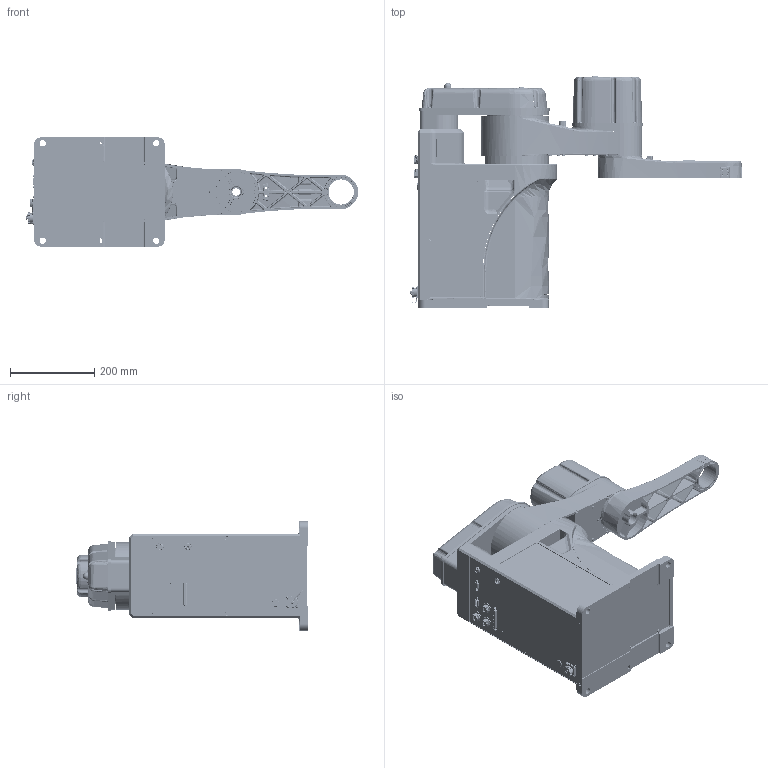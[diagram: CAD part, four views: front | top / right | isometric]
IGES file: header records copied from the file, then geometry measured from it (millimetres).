
Start section: SolidWorks IGES file using analytic representation for surfaces
Global section: file name: D:\QKM_PDM\01_SP研发\044HM8\05_对外发布模型\HM8-0500-0652-0000\IGS\HM8-0500-0652-0000-V1.0.IGS; native system: SolidWorks 2017; preprocessor: SolidWorks 2017; author: 0741; date: 211209.141801; units: millimetre
Bounding box: 789.6 x 552 x 260 mm (x, y, z)
Surface area: 1203381.5 mm2 (no closed solid volume)
Topology: 0 solids, 0 shells, 4872 faces, 58230 edges, 58014 vertices
Faces by surface type: bspline 2906, revolution 1966
